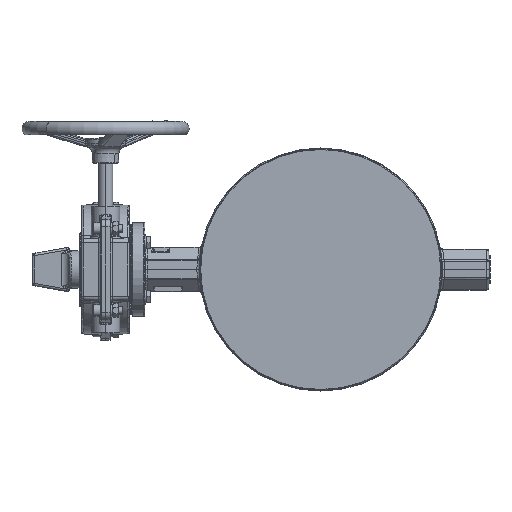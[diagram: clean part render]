
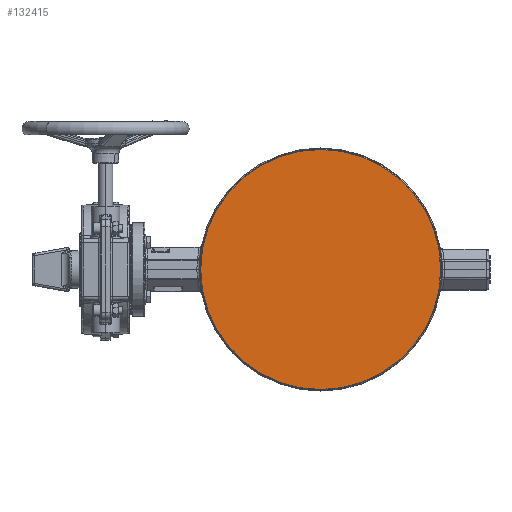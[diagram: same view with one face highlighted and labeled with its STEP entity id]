
A CAD part, left-side view. The second image highlights one B-rep face of the part: STEP entity #132415.
In plain terms, the highlighted planar face has unit normal (-1, 0, 0).
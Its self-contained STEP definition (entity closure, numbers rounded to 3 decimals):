
#296 = AXIS2_PLACEMENT_3D ( 'NONE', #115932, #52359, #29234 ) ;
#2825 = AXIS2_PLACEMENT_3D ( 'NONE', #62789, #8954, #73476 ) ;
#4795 = AXIS2_PLACEMENT_3D ( 'NONE', #126574, #41209, #19378 ) ;
#8954 = DIRECTION ( 'NONE',  ( -1., 0., 0. ) ) ;
#19378 = DIRECTION ( 'NONE',  ( 0., 1., 0. ) ) ;
#28969 = CARTESIAN_POINT ( 'NONE',  ( -82.5, 0., 160.925 ) ) ;
#29234 = DIRECTION ( 'NONE',  ( 0., 0., -1. ) ) ;
#41209 = DIRECTION ( 'NONE',  ( 1., 0., 0. ) ) ;
#51408 = CIRCLE ( 'NONE', #2825, 160.925 ) ;
#52359 = DIRECTION ( 'NONE',  ( -1., 0., 0. ) ) ;
#52643 = FACE_OUTER_BOUND ( 'NONE', #84152, .T. ) ;
#62789 = CARTESIAN_POINT ( 'NONE',  ( -82.5, 0., 0. ) ) ;
#68056 = CIRCLE ( 'NONE', #296, 160.925 ) ;
#73476 = DIRECTION ( 'NONE',  ( 0., 0., -1. ) ) ;
#80764 = EDGE_CURVE ( 'NONE', #135209, #119411, #51408, .T. ) ;
#84152 = EDGE_LOOP ( 'NONE', ( #95657, #93112 ) ) ;
#87906 = CARTESIAN_POINT ( 'NONE',  ( -82.5, 0., -160.925 ) ) ;
#93112 = ORIENTED_EDGE ( 'NONE', *, *, #113622, .T. ) ;
#95657 = ORIENTED_EDGE ( 'NONE', *, *, #80764, .T. ) ;
#103833 = PLANE ( 'NONE',  #4795 ) ;
#113622 = EDGE_CURVE ( 'NONE', #119411, #135209, #68056, .T. ) ;
#115932 = CARTESIAN_POINT ( 'NONE',  ( -82.5, 0., 0. ) ) ;
#119411 = VERTEX_POINT ( 'NONE', #28969 ) ;
#126574 = CARTESIAN_POINT ( 'NONE',  ( -82.5, 163., 0. ) ) ;
#132415 = ADVANCED_FACE ( 'NONE', ( #52643 ), #103833, .F. ) ;
#135209 = VERTEX_POINT ( 'NONE', #87906 ) ;
